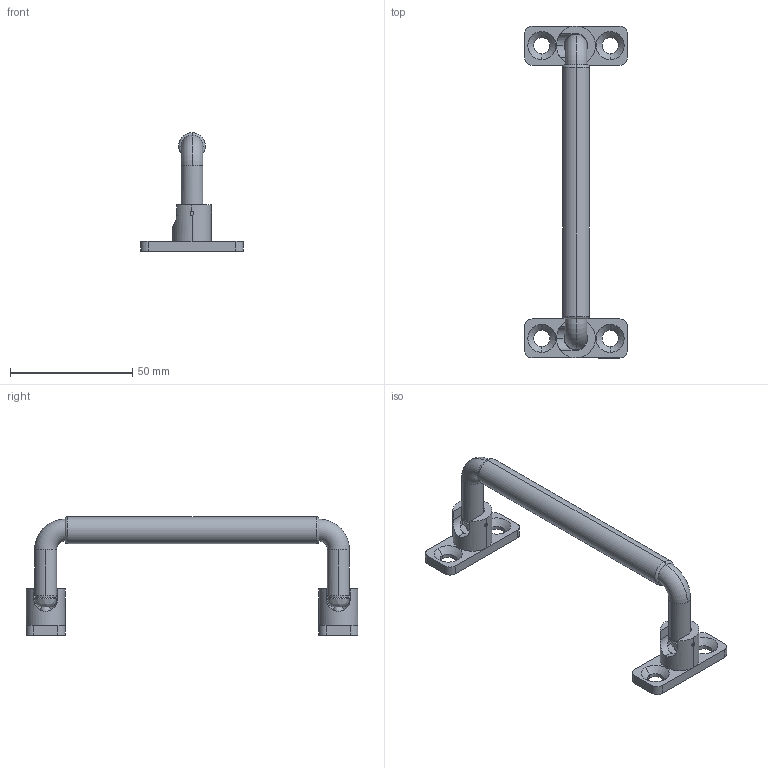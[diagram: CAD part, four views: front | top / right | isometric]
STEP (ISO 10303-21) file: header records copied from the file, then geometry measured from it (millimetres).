
FILE_DESCRIPTION (( 'STEP AP203' ), '1' );
FILE_NAME ('XG01-029-120.STEP', '2023-12-25T05:58:24', ( '' ), ( '' ), 'SwSTEP 2.0', 'SolidWorks 2020', '' );
FILE_SCHEMA (( 'CONFIG_CONTROL_DESIGN' ));
Length unit declared in the file: millimetre
Products named in the file (4): 嶺忒2; 嶺忒2-2; XG01-029-120; 种赽
Assembly tree (5 placements, depth 2):
  XG01-029-120
    嶺忒2-2  x2
    嶺忒2
    种赽  x2
Bounding box: 42 x 136 x 48.55 mm (x, y, z)
Volume: 22856.1 mm3; surface area: 17406.6 mm2
Topology: 8 solids, 8 shells, 160 faces, 411 edges, 250 vertices
Faces by surface type: cylinder 64, plane 56, torus 20, cone 12, sphere 4, bspline 4
Entity records: 3936 total; most frequent: CARTESIAN_POINT 880, DIRECTION 560, ORIENTED_EDGE 546, EDGE_CURVE 273, AXIS2_PLACEMENT_3D 228, VERTEX_POINT 170, CIRCLE 117, EDGE_LOOP 115
